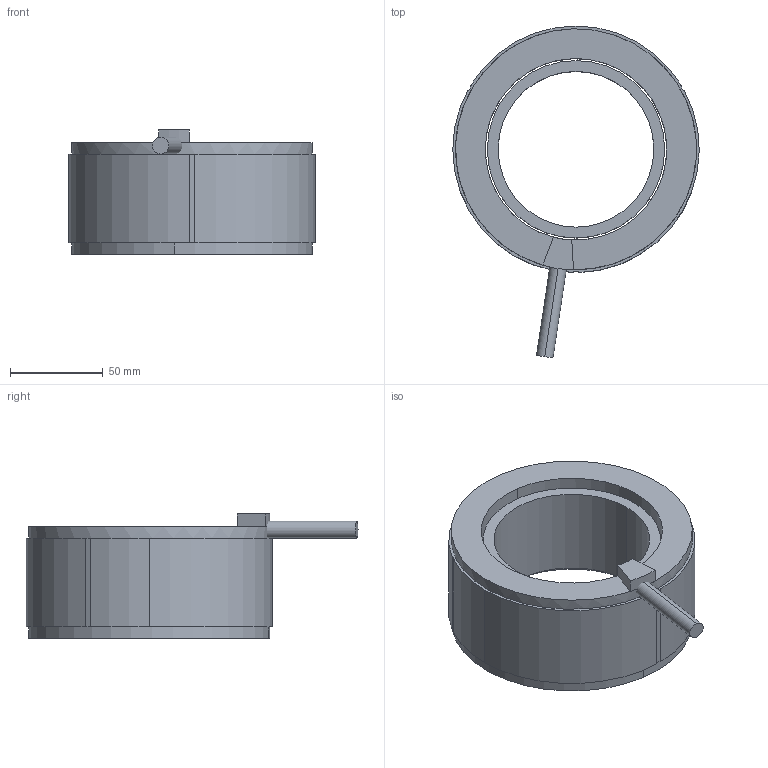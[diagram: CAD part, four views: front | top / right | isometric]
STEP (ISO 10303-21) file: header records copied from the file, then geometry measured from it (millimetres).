
FILE_DESCRIPTION (( 'STEP AP203' ), '1' );
FILE_NAME ('TM133-60 KIT 3D.STEP', '2021-06-21T03:34:42', ( '' ), ( '' ), 'SwSTEP 2.0', 'SolidWorks 2021', '' );
FILE_SCHEMA (( 'CONFIG_CONTROL_DESIGN' ));
Length unit declared in the file: millimetre
Products named in the file (1): TM133-60 KIT 3D
Bounding box: 133 x 179.12 x 67 mm (x, y, z)
Volume: 459212.4 mm3; surface area: 88968.2 mm2
Topology: 3 solids, 3 shells, 40 faces, 91 edges, 58 vertices
Faces by surface type: plane 22, cylinder 18
Entity records: 1212 total; most frequent: DIRECTION 213, CARTESIAN_POINT 190, ORIENTED_EDGE 182, EDGE_CURVE 91, AXIS2_PLACEMENT_3D 81, VERTEX_POINT 58, VECTOR 51, LINE 51
